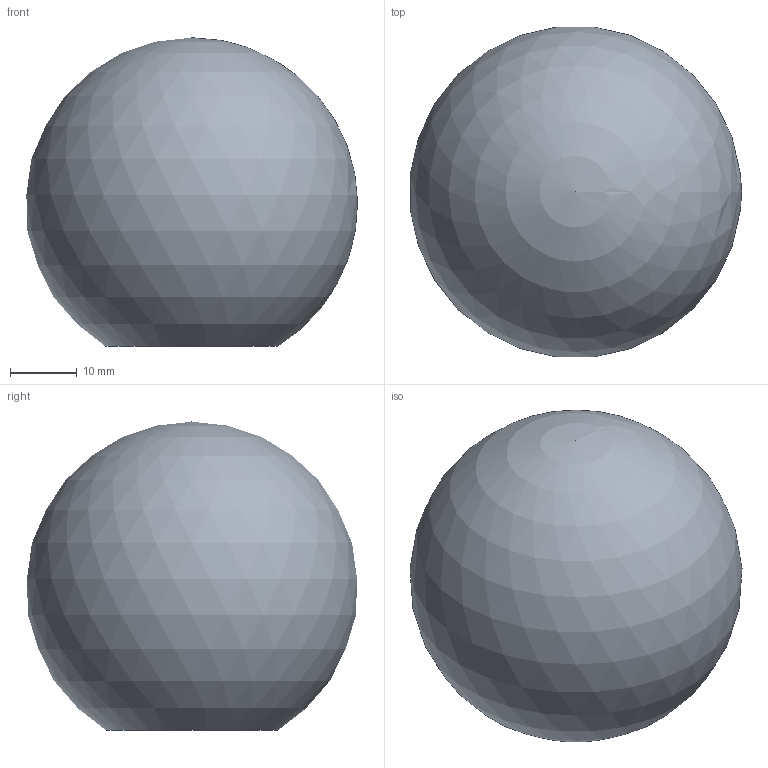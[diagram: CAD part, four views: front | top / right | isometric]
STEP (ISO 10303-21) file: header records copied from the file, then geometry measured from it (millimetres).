
FILE_DESCRIPTION( ('This file contains a STEP AP42 implementation' ,'as created by ZW3D STEP Interface translator.') ,'2;1' );
FILE_NAME( 'Galka kulista DK50 typA.stp' ,'26 331. 95326', (''), ('ZWCAD Software Co.'), 'Version 1.0', 'ZW3D to STEP translator', '' );
FILE_SCHEMA(('AP242_MANAGED_MODEL_BASED_3D_ENGINEERING_MIM_LF { 1 0 10303 442 1 1 4 }'));
Length unit declared in the file: millimetre
Products named in the file (1): 0
Bounding box: 49.8 x 49.61 x 46.4 mm (x, y, z)
Volume: 62381.7 mm3; surface area: 11948.2 mm2
Topology: 2 solids, 2 shells, 17 faces, 30 edges, 17 vertices
Faces by surface type: cylinder 6, cone 6, plane 4, sphere 1
Full cylindrical faces by diameter (mm): 10.2 x2, 15 x2, 17 x2
Entity records: 433 total; most frequent: DIRECTION 80, CARTESIAN_POINT 63, ORIENTED_EDGE 56, AXIS2_PLACEMENT_3D 34, EDGE_CURVE 28, EDGE_LOOP 19, VERTEX_POINT 17, FACE_OUTER_BOUND 17
